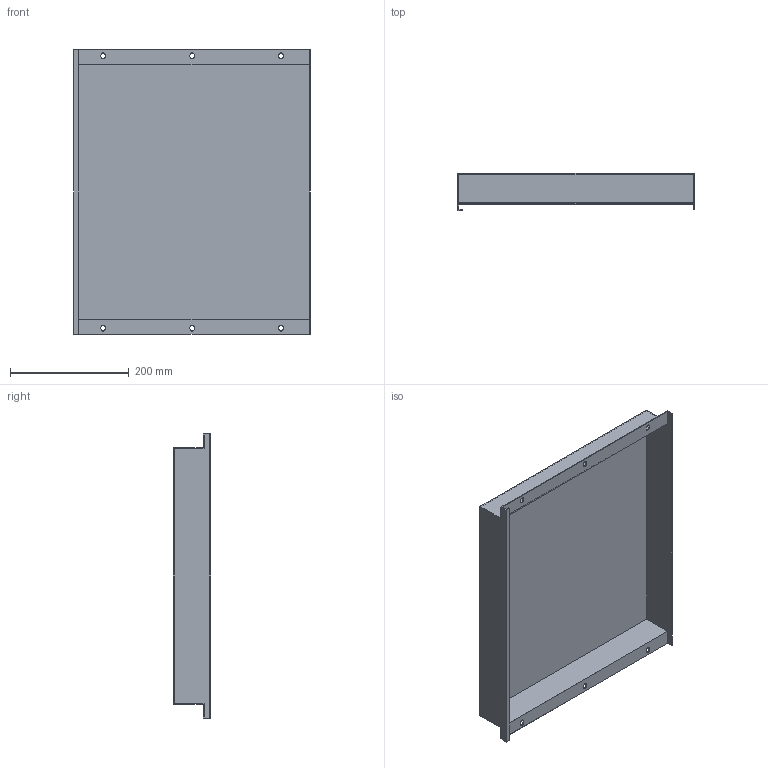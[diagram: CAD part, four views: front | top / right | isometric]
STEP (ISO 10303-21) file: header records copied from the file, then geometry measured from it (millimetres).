
FILE_DESCRIPTION (( 'STEP AP214' ), '1' );
FILE_NAME ('FO-00-PVSU-040-060 Ïëàñòðîí âíóòðåííèé óãëóáëåííûé 400õ600õ50.STEP', '2025-08-26T14:04:21', ( '' ), ( '' ), 'SwSTEP 2.0', 'SolidWorks 2023', '' );
FILE_SCHEMA (( 'AUTOMOTIVE_DESIGN' ));
Length unit declared in the file: millimetre
Products named in the file (1): FO-00-PVSU-040-060 Пластрон внутренний углубленный 400х600х50
Bounding box: 398 x 62.5 x 479 mm (x, y, z)
Volume: 399913.4 mm3; surface area: 574068.6 mm2
Topology: 1 solids, 1 shells, 52 faces, 150 edges, 100 vertices
Faces by surface type: plane 34, cylinder 18
Entity records: 1757 total; most frequent: CARTESIAN_POINT 303, ORIENTED_EDGE 300, DIRECTION 292, EDGE_CURVE 150, LINE 114, VECTOR 114, VERTEX_POINT 100, AXIS2_PLACEMENT_3D 89
